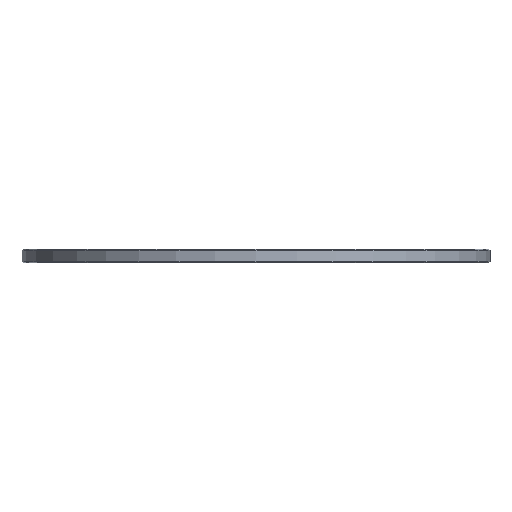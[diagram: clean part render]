
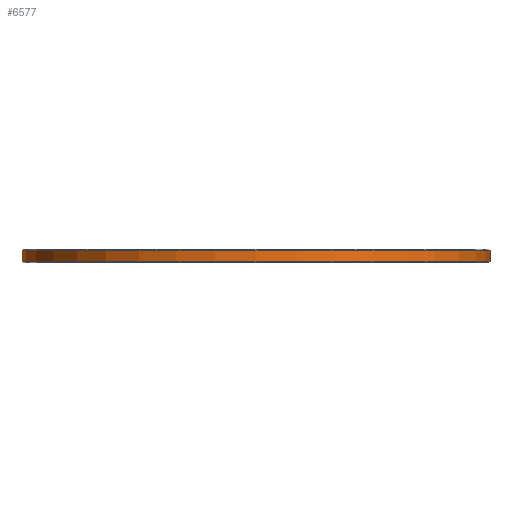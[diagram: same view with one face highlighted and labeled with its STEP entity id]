
A CAD part, front view. The second image highlights one B-rep face of the part: STEP entity #6577.
In plain terms, the highlighted cylindrical face has radius 53.125 mm (diameter 106.25 mm), a full revolution.
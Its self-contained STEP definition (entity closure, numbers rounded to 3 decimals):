
#80=CYLINDRICAL_SURFACE('',#7005,53.125);
#672=FACE_OUTER_BOUND('',#1063,.T.);
#1063=EDGE_LOOP('',(#6063,#6064,#6065,#6066));
#1172=CIRCLE('',#7004,53.125);
#1173=CIRCLE('',#7006,53.125);
#1986=LINE('',#10508,#2813);
#2813=VECTOR('',#8611,53.125);
#3418=VERTEX_POINT('',#10502);
#3419=VERTEX_POINT('',#10506);
#4303=EDGE_CURVE('',#3418,#3418,#1172,.T.);
#4305=EDGE_CURVE('',#3419,#3419,#1173,.T.);
#4306=EDGE_CURVE('',#3419,#3418,#1986,.T.);
#6063=ORIENTED_EDGE('',*,*,#4305,.F.);
#6064=ORIENTED_EDGE('',*,*,#4306,.T.);
#6065=ORIENTED_EDGE('',*,*,#4303,.F.);
#6066=ORIENTED_EDGE('',*,*,#4306,.F.);
#6577=ADVANCED_FACE('',(#672),#80,.T.);
#7004=AXIS2_PLACEMENT_3D('',#10503,#8604,#8605);
#7005=AXIS2_PLACEMENT_3D('',#10505,#8607,#8608);
#7006=AXIS2_PLACEMENT_3D('',#10507,#8609,#8610);
#8604=DIRECTION('center_axis',(0.,0.,-1.));
#8605=DIRECTION('ref_axis',(1.,0.,0.));
#8607=DIRECTION('center_axis',(0.,0.,1.));
#8608=DIRECTION('ref_axis',(1.,0.,0.));
#8609=DIRECTION('center_axis',(0.,0.,1.));
#8610=DIRECTION('ref_axis',(1.,0.,0.));
#8611=DIRECTION('',(0.,0.,-1.));
#10502=CARTESIAN_POINT('',(-53.125,0.,0.3));
#10503=CARTESIAN_POINT('Origin',(0.,0.,0.3));
#10505=CARTESIAN_POINT('Origin',(0.,0.,0.));
#10506=CARTESIAN_POINT('',(-53.125,0.,2.825));
#10507=CARTESIAN_POINT('Origin',(0.,0.,2.825));
#10508=CARTESIAN_POINT('',(-53.125,0.,0.));
